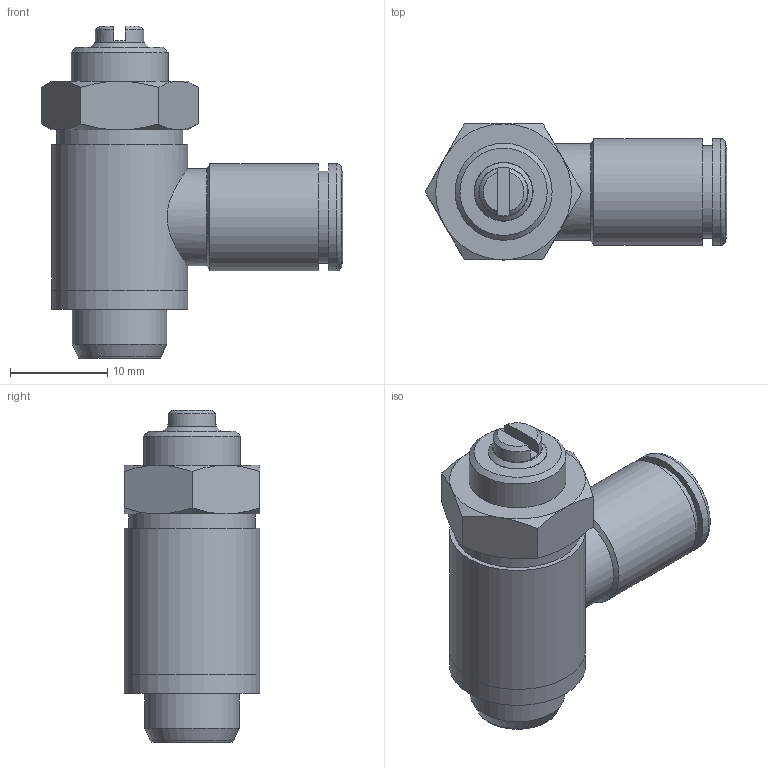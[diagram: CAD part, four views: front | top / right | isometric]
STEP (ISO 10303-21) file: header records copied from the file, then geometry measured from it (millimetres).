
FILE_DESCRIPTION(('Bauteilbeschreibung','HiCAD-Model','HiCAD-STEP-TRANSLATION','Bauteilbeschreibung'),'2;1');
FILE_NAME('B:/ABGLEICH/ZEICHNUNGEN/STEP FÜR INTERNET/STEP/IPSO 029/304805_IPSO_029_6_1-8.STP','2012-05-02T14:04:23+00:00',('Konstrukteur'),('Konstrukteur Firma GmbH'),' HiCAD neXt 2008, Step 3.1.1401.2J ','HiCAD neXt 2008','confidential');
FILE_SCHEMA(('AUTOMOTIVE_DESIGN { 1 2 10303 214 0 1 1 1 }'));
Length unit declared in the file: millimetre
Products named in the file (17): A04805_IPSO_029_6_1_8; BAUGRUPPE 304001_1; A04001_2; A0400102; DIN 13_M6X0_75; A04001_3; A0400103; DIN 13_M8X0_75; A04001_1; A0400101; G 1_8; DIN 13_M7X0_75; DIN0130M6X0075; A00032; A00042_DTG__1_8_UNV ; DR6_1_NEU; R201205_N
Assembly tree (16 placements, depth 4):
  A04805_IPSO_029_6_1_8
    BAUGRUPPE 304001_1
      A04001_2
      A0400102
        DIN 13_M6X0_75
      A04001_3
      A0400103
        DIN 13_M8X0_75
      A04001_1
      A0400101
        G 1_8
        DIN 13_M7X0_75
        DIN0130M6X0075
    A00032
    A00042_DTG__1_8_UNV 
    DR6_1_NEU
    R201205_N
Bounding box: 31.08 x 14 x 34.2 mm (x, y, z)
Volume: 4459.6 mm3; surface area: 7203.8 mm2
Topology: 12 solids, 12 shells, 162 faces, 344 edges, 212 vertices
Faces by surface type: cylinder 59, plane 51, cone 50, torus 2
Full cylindrical faces by diameter (mm): 2.2 x4, 3 x1, 4 x1, 5 x3, 5.08 x3, 5.6 x1, 5.8 x1, 6 x3, 6.08 x1, 6.1 x1, 6.2 x1, 6.4 x1, 6.5 x1, 6.9 x1, 7 x3, 7.08 x2, 7.5 x1, 7.6 x1, 8 x1, 8.3 x1, 8.566 x2, 8.8 x1, 9 x1, 9.5 x1, 9.6 x1, 9.65 x2, 9.728 x1, 9.9 x2, 10 x3, 10.2 x1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
Entity records: 11581 total; most frequent: CARTESIAN_POINT 7111, DIRECTION 722, ORIENTED_EDGE 436, AXIS2_PLACEMENT_3D 348, EDGE_LOOP 296, COLOUR_RGB 220, PRESENTATION_STYLE_ASSIGNMENT 220, EDGE_CURVE 218
